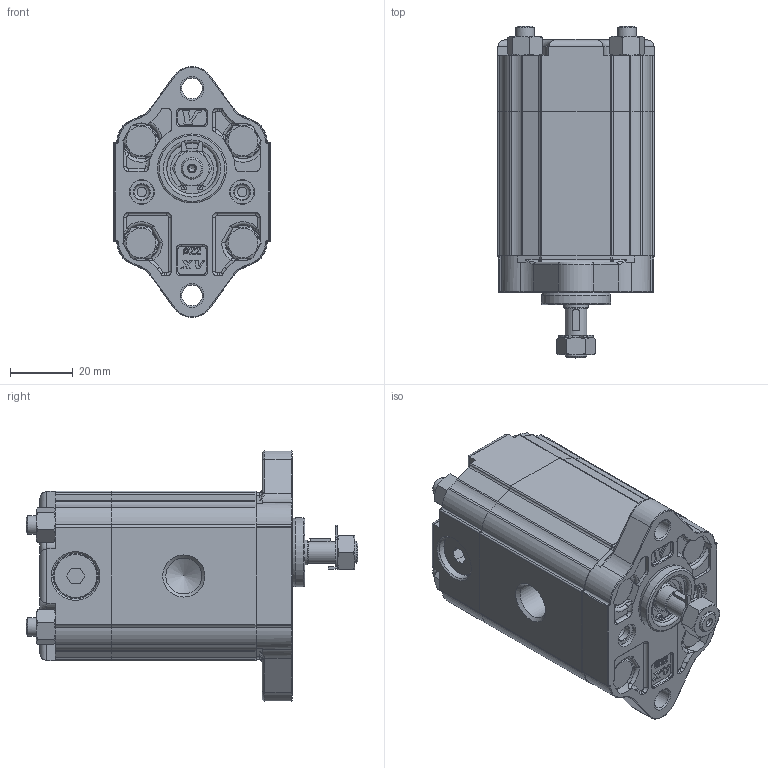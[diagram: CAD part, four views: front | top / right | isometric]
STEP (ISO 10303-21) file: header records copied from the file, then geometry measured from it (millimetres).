
FILE_DESCRIPTION(/* description */ ('Unknown'),/* implementation_level */ '2;1');
FILE_NAME(/* name */ 'X0M1301ABBF',/* time_stamp */ '2021-06-04T14:12:12+02:00',/* author */ ('Unknown'),/* organization */ ('Unknown'),/* preprocessor_version */ 'ST-DEVELOPER v16.7',/* originating_system */ 'Solid Edge',/* authorisation */ 'Unknown');
FILE_SCHEMA (('AUTOMOTIVE_DESIGN {1 0 10303 214 3 1 1}'));
Length unit declared in the file: millimetre
Products named in the file (5): X0M1301ABBF; X0M01; 0A; X0BBH46; XM001-F
Assembly tree (4 placements, depth 2):
  X0M1301ABBF
    X0M01
    0A
    X0BBH46
    XM001-F
Bounding box: 50 x 105.8 x 79.95 mm (x, y, z)
Volume: 186646.3 mm3; surface area: 45722.4 mm2
Topology: 4 solids, 9 shells, 980 faces, 2526 edges, 1598 vertices
Faces by surface type: plane 424, cylinder 315, cone 111, torus 84, bspline 42, sphere 4
Full cylindrical faces by diameter (mm): 1.053 x2, 2 x1, 5 x2, 6 x8, 6.01 x4, 6.5 x8, 7 x2, 7.25 x1, 7.5 x2, 7.9 x2, 7.92 x1, 8 x2, 8.1 x2, 8.566 x6, 9.318 x1, 10 x6, 10.445 x1, 11 x1, 11.445 x2, 14 x5, 14.5 x2, 16 x1, 16.2 x1, 16.8 x1, 22 x1
Entity records: 36588 total; most frequent: CARTESIAN_POINT 6380, DIRECTION 4929, ORIENTED_EDGE 4676, EDGE_CURVE 2338, AXIS2_PLACEMENT_3D 1900, VERTEX_POINT 1540, FACE_BOUND 1214, EDGE_LOOP 1209
